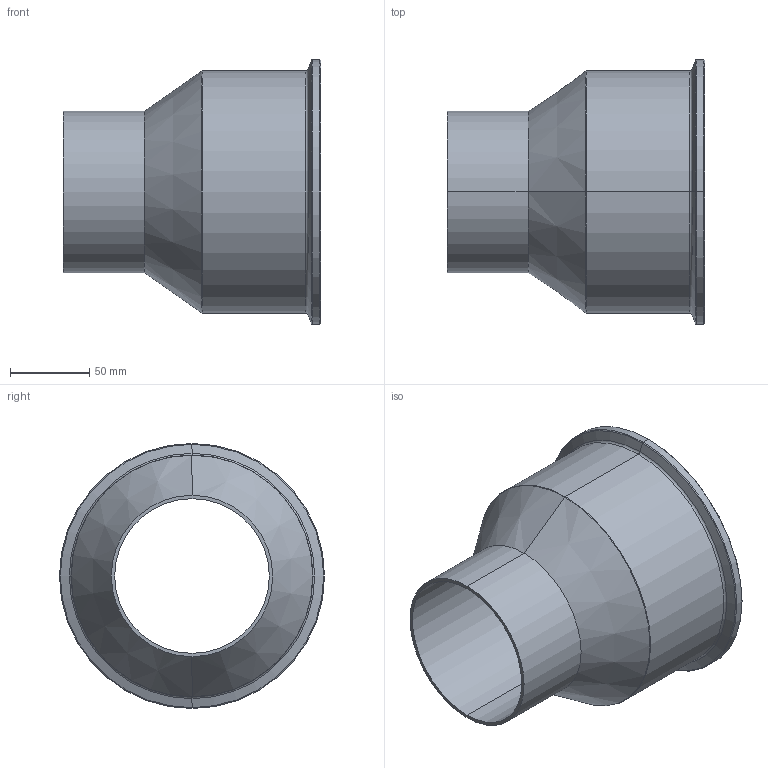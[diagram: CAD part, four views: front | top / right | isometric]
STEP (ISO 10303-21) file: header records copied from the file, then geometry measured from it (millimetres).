
FILE_DESCRIPTION (( 'STEP AP214' ), '1' );
FILE_NAME ('TE31SCW6L6.0x4.0-...STEP', '2016-05-29T12:10:58', ( 'eran' ), ( '' ), 'SwSTEP 2.0', 'SolidWorks 2016', '' );
FILE_SCHEMA (( 'AUTOMOTIVE_DESIGN' ));
Length unit declared in the file: millimetre
Products named in the file (1): TE31SCW6L6.0x4.0-..
Bounding box: 161.93 x 166.88 x 166.88 mm (x, y, z)
Volume: 710308.4 mm3; surface area: 136001.2 mm2
Topology: 1 solids, 1 shells, 41 faces, 82 edges, 44 vertices
Faces by surface type: torus 14, cone 14, cylinder 10, plane 3
Entity records: 1096 total; most frequent: DIRECTION 224, CARTESIAN_POINT 168, ORIENTED_EDGE 164, AXIS2_PLACEMENT_3D 100, EDGE_CURVE 82, CIRCLE 58, VERTEX_POINT 44, EDGE_LOOP 44
